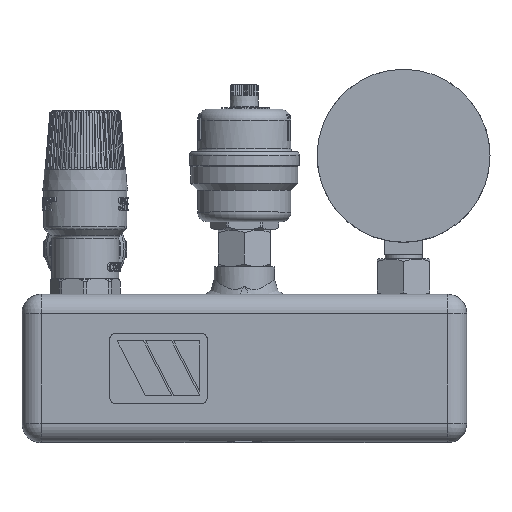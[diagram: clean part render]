
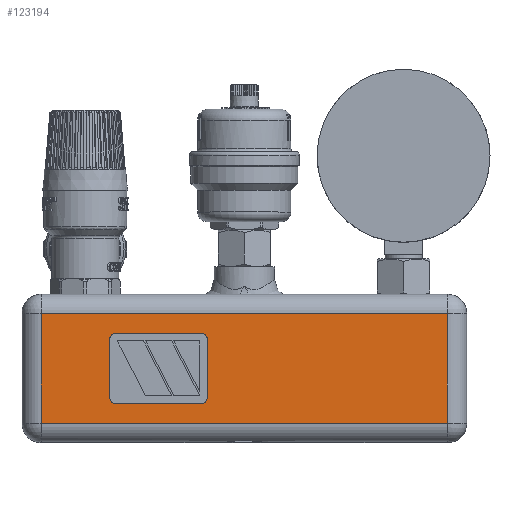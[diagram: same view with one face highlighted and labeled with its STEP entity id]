
A CAD part, top view. The second image highlights one B-rep face of the part: STEP entity #123194.
In plain terms, the highlighted planar face has unit normal (0, 0, 1).
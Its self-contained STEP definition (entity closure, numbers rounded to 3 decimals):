
#148 = CARTESIAN_POINT ( 'NONE',  ( -107.632, 34.187, 41.034 ) ) ;
#241 = CIRCLE ( 'NONE', #93947, 2. ) ;
#611 = LINE ( 'NONE', #83872, #81250 ) ;
#729 = AXIS2_PLACEMENT_3D ( 'NONE', #89979, #110433, #111108 ) ;
#777 = VERTEX_POINT ( 'NONE', #43581 ) ;
#822 = ORIENTED_EDGE ( 'NONE', *, *, #86409, .F. ) ;
#879 = ORIENTED_EDGE ( 'NONE', *, *, #44015, .T. ) ;
#969 = CARTESIAN_POINT ( 'NONE',  ( -109.632, 32.187, 41.034 ) ) ;
#1501 = CARTESIAN_POINT ( 'NONE',  ( -107.632, 32.187, 41.034 ) ) ;
#4558 = DIRECTION ( 'NONE',  ( -1., 0., 0. ) ) ;
#6359 = CARTESIAN_POINT ( 'NONE',  ( -76.132, 8.687, 41.034 ) ) ;
#7813 = CARTESIAN_POINT ( 'NONE',  ( -74.132, 10.687, 41.034 ) ) ;
#8306 = EDGE_CURVE ( 'NONE', #115053, #31854, #104532, .T. ) ;
#9208 = EDGE_LOOP ( 'NONE', ( #879, #44412, #115051, #67819 ) ) ;
#10388 = ORIENTED_EDGE ( 'NONE', *, *, #8306, .F. ) ;
#11457 = DIRECTION ( 'NONE',  ( 1., 0., 0. ) ) ;
#12444 = DIRECTION ( 'NONE',  ( 0., -1., 0. ) ) ;
#13664 = VECTOR ( 'NONE', #68699, 1000. ) ;
#14139 = FACE_OUTER_BOUND ( 'NONE', #9208, .T. ) ;
#19179 = LINE ( 'NONE', #92204, #78819 ) ;
#20112 = CARTESIAN_POINT ( 'NONE',  ( 13.368, 1.437, 41.034 ) ) ;
#22444 = DIRECTION ( 'NONE',  ( 0., -1., 0. ) ) ;
#25045 = PLANE ( 'NONE',  #131008 ) ;
#25425 = CARTESIAN_POINT ( 'NONE',  ( -74.132, 32.187, 41.034 ) ) ;
#25786 = VERTEX_POINT ( 'NONE', #6359 ) ;
#26667 = VECTOR ( 'NONE', #12444, 1000. ) ;
#28118 = VERTEX_POINT ( 'NONE', #90892 ) ;
#28991 = VERTEX_POINT ( 'NONE', #51480 ) ;
#31650 = LINE ( 'NONE', #25425, #110779 ) ;
#31854 = VERTEX_POINT ( 'NONE', #125816 ) ;
#32885 = DIRECTION ( 'NONE',  ( 1., 0., 0. ) ) ;
#33059 = AXIS2_PLACEMENT_3D ( 'NONE', #53232, #126196, #41626 ) ;
#39499 = DIRECTION ( 'NONE',  ( 1., 0., 0. ) ) ;
#39956 = VERTEX_POINT ( 'NONE', #20112 ) ;
#41200 = EDGE_CURVE ( 'NONE', #86091, #28991, #78717, .T. ) ;
#41626 = DIRECTION ( 'NONE',  ( -1., 0., 0. ) ) ;
#42464 = DIRECTION ( 'NONE',  ( 0., 0., 1. ) ) ;
#42921 = VECTOR ( 'NONE', #70759, 1000. ) ;
#43581 = CARTESIAN_POINT ( 'NONE',  ( -134.632, 1.437, 41.034 ) ) ;
#44015 = EDGE_CURVE ( 'NONE', #39956, #62204, #118544, .T. ) ;
#44412 = ORIENTED_EDGE ( 'NONE', *, *, #79836, .T. ) ;
#48655 = CIRCLE ( 'NONE', #729, 2. ) ;
#51480 = CARTESIAN_POINT ( 'NONE',  ( -76.132, 34.187, 41.034 ) ) ;
#53232 = CARTESIAN_POINT ( 'NONE',  ( -76.132, 32.187, 41.034 ) ) ;
#57720 = EDGE_CURVE ( 'NONE', #25786, #107254, #48655, .T. ) ;
#58484 = LINE ( 'NONE', #100074, #42921 ) ;
#59140 = ORIENTED_EDGE ( 'NONE', *, *, #98199, .F. ) ;
#62204 = VERTEX_POINT ( 'NONE', #74854 ) ;
#65997 = FACE_BOUND ( 'NONE', #68552, .T. ) ;
#66676 = CARTESIAN_POINT ( 'NONE',  ( -134.632, 41.437, 41.034 ) ) ;
#67819 = ORIENTED_EDGE ( 'NONE', *, *, #124066, .T. ) ;
#68552 = EDGE_LOOP ( 'NONE', ( #10388, #70006, #104966, #117817, #822, #109595, #106801, #59140 ) ) ;
#68699 = DIRECTION ( 'NONE',  ( 0., 1., 0. ) ) ;
#70006 = ORIENTED_EDGE ( 'NONE', *, *, #74517, .F. ) ;
#70759 = DIRECTION ( 'NONE',  ( -1., 0., 0. ) ) ;
#70895 = CARTESIAN_POINT ( 'NONE',  ( -107.632, 10.687, 41.034 ) ) ;
#72472 = DIRECTION ( 'NONE',  ( -1., 0., 0. ) ) ;
#74517 = EDGE_CURVE ( 'NONE', #28118, #115053, #85870, .T. ) ;
#74854 = CARTESIAN_POINT ( 'NONE',  ( 13.368, 41.437, 41.034 ) ) ;
#78431 = CARTESIAN_POINT ( 'NONE',  ( -107.632, 8.687, 41.034 ) ) ;
#78717 = CIRCLE ( 'NONE', #33059, 2. ) ;
#78819 = VECTOR ( 'NONE', #11457, 1000. ) ;
#79836 = EDGE_CURVE ( 'NONE', #62204, #107251, #58484, .T. ) ;
#81177 = EDGE_CURVE ( 'NONE', #110511, #25786, #108492, .T. ) ;
#81250 = VECTOR ( 'NONE', #22444, 1000. ) ;
#81487 = CARTESIAN_POINT ( 'NONE',  ( -134.632, 41.437, 41.034 ) ) ;
#83872 = CARTESIAN_POINT ( 'NONE',  ( -134.632, 41.437, 41.034 ) ) ;
#85870 = CIRCLE ( 'NONE', #127265, 2. ) ;
#86091 = VERTEX_POINT ( 'NONE', #93295 ) ;
#86409 = EDGE_CURVE ( 'NONE', #107254, #86091, #31650, .T. ) ;
#86789 = CARTESIAN_POINT ( 'NONE',  ( -109.632, 32.187, 41.034 ) ) ;
#88867 = DIRECTION ( 'NONE',  ( 0., 1., 0. ) ) ;
#89979 = CARTESIAN_POINT ( 'NONE',  ( -76.132, 10.687, 41.034 ) ) ;
#90892 = CARTESIAN_POINT ( 'NONE',  ( -107.632, 34.187, 41.034 ) ) ;
#92204 = CARTESIAN_POINT ( 'NONE',  ( -134.632, 1.437, 41.034 ) ) ;
#92983 = LINE ( 'NONE', #148, #132263 ) ;
#93295 = CARTESIAN_POINT ( 'NONE',  ( -74.132, 32.187, 41.034 ) ) ;
#93372 = DIRECTION ( 'NONE',  ( 0., 0., 1. ) ) ;
#93947 = AXIS2_PLACEMENT_3D ( 'NONE', #70895, #93372, #39499 ) ;
#98199 = EDGE_CURVE ( 'NONE', #31854, #110511, #241, .T. ) ;
#100074 = CARTESIAN_POINT ( 'NONE',  ( -134.632, 41.437, 41.034 ) ) ;
#104532 = LINE ( 'NONE', #86789, #26667 ) ;
#104966 = ORIENTED_EDGE ( 'NONE', *, *, #116494, .F. ) ;
#106217 = VECTOR ( 'NONE', #120049, 1000. ) ;
#106801 = ORIENTED_EDGE ( 'NONE', *, *, #81177, .F. ) ;
#107251 = VERTEX_POINT ( 'NONE', #81487 ) ;
#107254 = VERTEX_POINT ( 'NONE', #7813 ) ;
#108276 = DIRECTION ( 'NONE',  ( 0., 0., -1. ) ) ;
#108492 = LINE ( 'NONE', #78431, #106217 ) ;
#109595 = ORIENTED_EDGE ( 'NONE', *, *, #57720, .F. ) ;
#110433 = DIRECTION ( 'NONE',  ( 0., 0., 1. ) ) ;
#110511 = VERTEX_POINT ( 'NONE', #115411 ) ;
#110779 = VECTOR ( 'NONE', #88867, 1000. ) ;
#111108 = DIRECTION ( 'NONE',  ( 1., 0., 0. ) ) ;
#115051 = ORIENTED_EDGE ( 'NONE', *, *, #127212, .T. ) ;
#115053 = VERTEX_POINT ( 'NONE', #969 ) ;
#115411 = CARTESIAN_POINT ( 'NONE',  ( -107.632, 8.687, 41.034 ) ) ;
#116494 = EDGE_CURVE ( 'NONE', #28991, #28118, #92983, .T. ) ;
#117817 = ORIENTED_EDGE ( 'NONE', *, *, #41200, .F. ) ;
#118544 = LINE ( 'NONE', #130763, #13664 ) ;
#120049 = DIRECTION ( 'NONE',  ( 1., 0., 0. ) ) ;
#123194 = ADVANCED_FACE ( 'NONE', ( #65997, #14139 ), #25045, .F. ) ;
#124066 = EDGE_CURVE ( 'NONE', #777, #39956, #19179, .T. ) ;
#125816 = CARTESIAN_POINT ( 'NONE',  ( -109.632, 10.687, 41.034 ) ) ;
#126196 = DIRECTION ( 'NONE',  ( 0., 0., 1. ) ) ;
#127212 = EDGE_CURVE ( 'NONE', #107251, #777, #611, .T. ) ;
#127265 = AXIS2_PLACEMENT_3D ( 'NONE', #1501, #42464, #32885 ) ;
#130763 = CARTESIAN_POINT ( 'NONE',  ( 13.368, 41.437, 41.034 ) ) ;
#131008 = AXIS2_PLACEMENT_3D ( 'NONE', #66676, #108276, #4558 ) ;
#132263 = VECTOR ( 'NONE', #72472, 1000. ) ;
